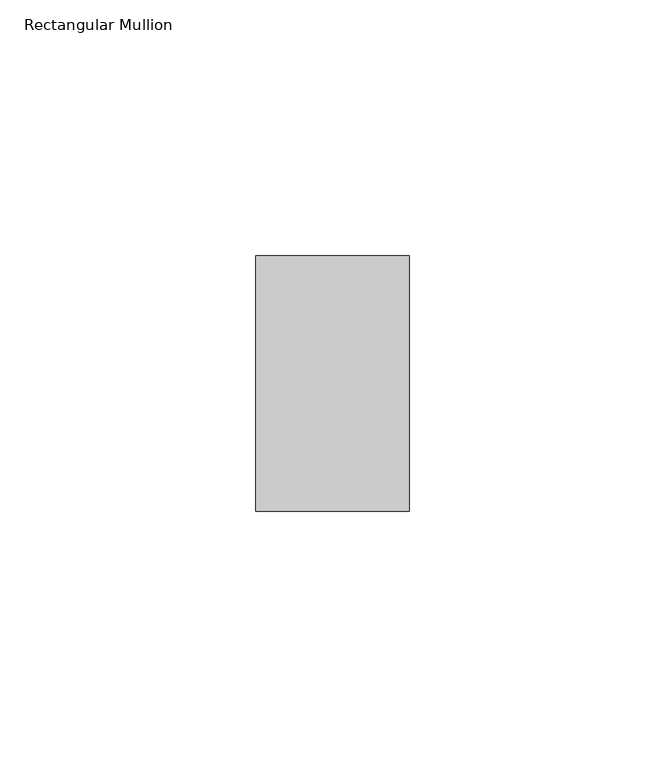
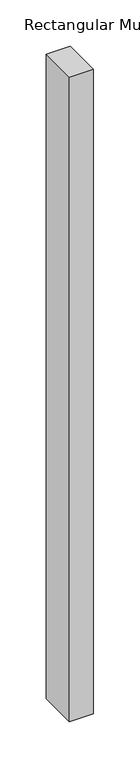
"""IFC4 building model written with IfcOpenShell, lengths in millimetres: member geometry, Rectangular Mullion : ARQ_TV_MULL_50x30mm."""

from ifc_helpers import new_model, si_unit, frame, origin, place, context, project, spatial, polyline, outline, extrude, source, transform, mapped, element, save


def rectangular_mullion_919e1dbe(model_context):
    return source(origin(), model_context, "Body", "SweptSolid", [
        extrude(outline(polyline([(0.0, 25.0), (0.0, -25.0), (-30.0, -25.0), (-30.0, 25.0), (0.0, 25.0)])), frame((0.0, 0.0, -850.0), z_axis=(0.0, 0.0, 1.0), x_axis=(1.0, 0.0, 0.0)), (0.0, 0.0, 1.0), 850.0),
    ])


if __name__ == "__main__":
    model = new_model("IFC4")
    model_context = context("Model", 3, world=origin())
    ifc_project = project(units=[si_unit("LENGTHUNIT", "METRE", prefix="MILLI")], contexts=[model_context])
    site = spatial("IfcSite", under=ifc_project)
    building = spatial("IfcBuilding", under=site)
    placement = place(None, origin())
    rectangular_mullion_shape = rectangular_mullion_919e1dbe(model_context)
    element("IfcMember", 1, ObjectType="Rectangular Mullion : ARQ_TV_MULL_50x30mm", at=placement, inside=building, context=model_context, shape_type="MappedRepresentation", body=[
        mapped(rectangular_mullion_shape, transform((0.0, 0.0, 0.0), x_axis=(1.0, 0.0, 0.0), y_axis=(0.0, 1.0, 0.0), z_axis=(0.0, 0.0, 1.0))),
    ])
    save(model, "model.ifc")
